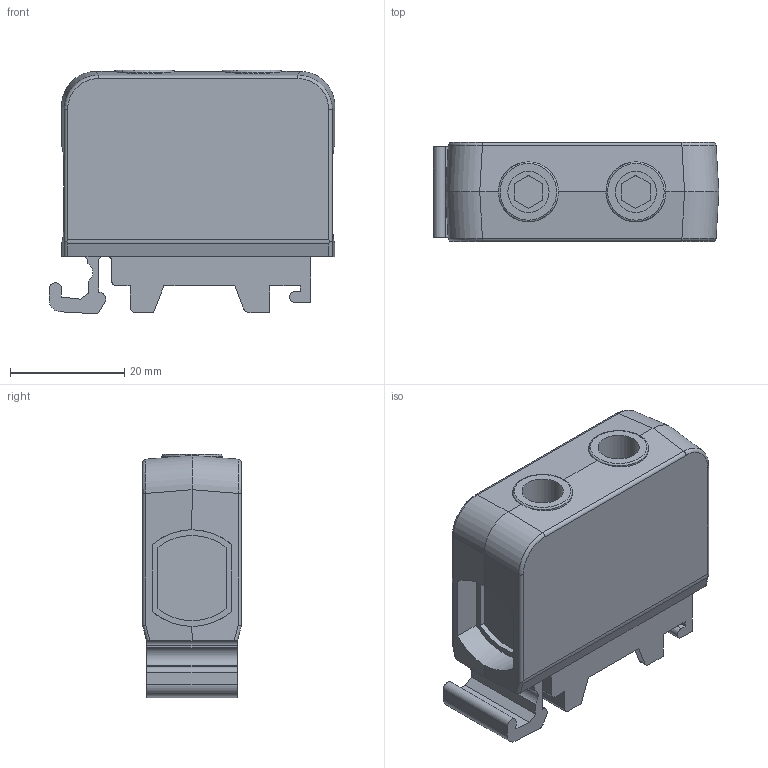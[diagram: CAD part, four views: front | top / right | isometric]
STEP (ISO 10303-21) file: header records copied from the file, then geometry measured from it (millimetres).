
FILE_DESCRIPTION(/* description */ ('Unknown'),/* implementation_level */ '2;1');
FILE_NAME(/* name */ 'utb 50',/* time_stamp */ '2021-04-01T13:18:03+02:00',/* author */ ('Unknown'),/* organization */ ('Unknown'),/* preprocessor_version */ 'ST-DEVELOPER v16.7',/* originating_system */ 'Solid Edge',/* authorisation */ 'Unknown');
FILE_SCHEMA (('AUTOMOTIVE_DESIGN {1 0 10303 214 3 1 1}'));
Length unit declared in the file: millimetre
Products named in the file (1): utb 50
Bounding box: 49.95 x 17.3 x 42.57 mm (x, y, z)
Volume: 25521.3 mm3; surface area: 8596.4 mm2
Topology: 1 solids, 1 shells, 134 faces, 354 edges, 228 vertices
Faces by surface type: plane 84, cylinder 44, bspline 4, torus 2
Full cylindrical faces by diameter (mm): 7.2 x2
Entity records: 4184 total; most frequent: CARTESIAN_POINT 817, ORIENTED_EDGE 700, DIRECTION 688, EDGE_CURVE 350, LINE 242, VECTOR 242, VERTEX_POINT 228, AXIS2_PLACEMENT_3D 223
